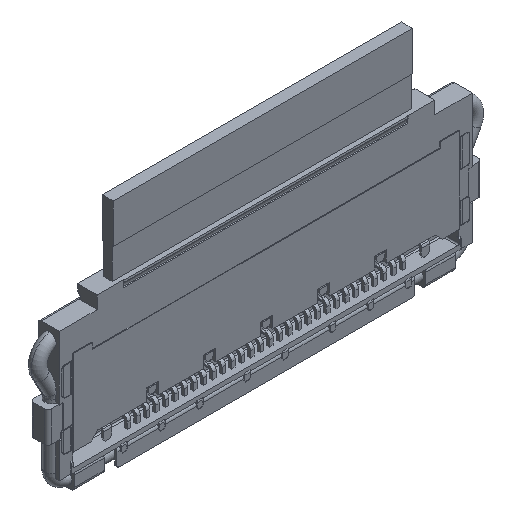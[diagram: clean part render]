
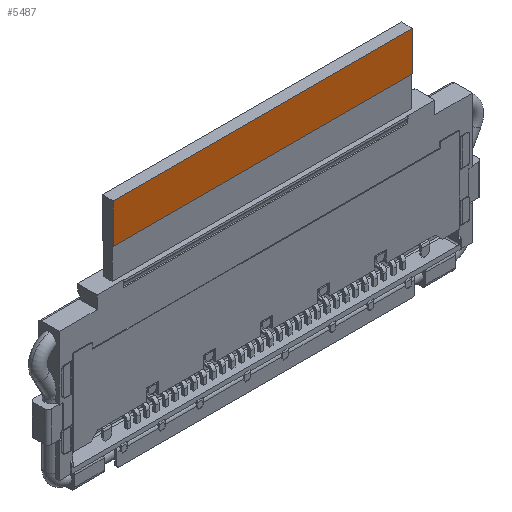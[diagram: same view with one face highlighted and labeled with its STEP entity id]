
A CAD part, isometric view. The second image highlights one B-rep face of the part: STEP entity #5487.
In plain terms, the highlighted planar face has unit normal (0, -1, 0).
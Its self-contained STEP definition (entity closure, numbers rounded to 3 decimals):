
#802 = CARTESIAN_POINT ( 'NONE',  ( -6.3, 0.16, 1.71 ) ) ;
#2354 = DIRECTION ( 'NONE',  ( -1., 0., 0. ) ) ;
#2397 = PLANE ( 'NONE',  #6540 ) ;
#2828 = VECTOR ( 'NONE', #16095, 1000. ) ;
#2873 = LINE ( 'NONE', #13813, #24014 ) ;
#3575 = CARTESIAN_POINT ( 'NONE',  ( -6.3, 0.16, 1.71 ) ) ;
#4297 = EDGE_CURVE ( 'NONE', #30305, #23713, #2873, .T. ) ;
#5487 = ADVANCED_FACE ( 'NONE', ( #10004 ), #2397, .T. ) ;
#5503 = EDGE_CURVE ( 'NONE', #10767, #30305, #32734, .T. ) ;
#5973 = ORIENTED_EDGE ( 'NONE', *, *, #21205, .F. ) ;
#6540 = AXIS2_PLACEMENT_3D ( 'NONE', #15470, #34495, #28875 ) ;
#6615 = LINE ( 'NONE', #802, #30849 ) ;
#7974 = LINE ( 'NONE', #13441, #2828 ) ;
#10004 = FACE_OUTER_BOUND ( 'NONE', #33672, .T. ) ;
#10767 = VERTEX_POINT ( 'NONE', #26372 ) ;
#13286 = ORIENTED_EDGE ( 'NONE', *, *, #4297, .T. ) ;
#13441 = CARTESIAN_POINT ( 'NONE',  ( 10.3, 0.16, 1.71 ) ) ;
#13813 = CARTESIAN_POINT ( 'NONE',  ( 10.3, 0.16, 3.37 ) ) ;
#14025 = DIRECTION ( 'NONE',  ( 0., 0., 1. ) ) ;
#15470 = CARTESIAN_POINT ( 'NONE',  ( 10.3, 0.16, 1.71 ) ) ;
#16095 = DIRECTION ( 'NONE',  ( -1., 0., 0. ) ) ;
#17181 = EDGE_CURVE ( 'NONE', #25885, #23713, #6615, .T. ) ;
#19153 = DIRECTION ( 'NONE',  ( 0., 0., 1. ) ) ;
#20366 = CARTESIAN_POINT ( 'NONE',  ( -6.3, 0.16, 3.37 ) ) ;
#21205 = EDGE_CURVE ( 'NONE', #10767, #25885, #7974, .T. ) ;
#21614 = ORIENTED_EDGE ( 'NONE', *, *, #5503, .T. ) ;
#23713 = VERTEX_POINT ( 'NONE', #20366 ) ;
#23743 = ORIENTED_EDGE ( 'NONE', *, *, #17181, .F. ) ;
#24014 = VECTOR ( 'NONE', #2354, 1000. ) ;
#24435 = CARTESIAN_POINT ( 'NONE',  ( 6.3, 0.16, 1.71 ) ) ;
#25885 = VERTEX_POINT ( 'NONE', #3575 ) ;
#26372 = CARTESIAN_POINT ( 'NONE',  ( 6.3, 0.16, 1.71 ) ) ;
#28875 = DIRECTION ( 'NONE',  ( 0., 0., -1. ) ) ;
#30305 = VERTEX_POINT ( 'NONE', #31496 ) ;
#30754 = VECTOR ( 'NONE', #19153, 1000. ) ;
#30849 = VECTOR ( 'NONE', #14025, 1000. ) ;
#31496 = CARTESIAN_POINT ( 'NONE',  ( 6.3, 0.16, 3.37 ) ) ;
#32734 = LINE ( 'NONE', #24435, #30754 ) ;
#33672 = EDGE_LOOP ( 'NONE', ( #5973, #21614, #13286, #23743 ) ) ;
#34495 = DIRECTION ( 'NONE',  ( 0., -1., 0. ) ) ;
